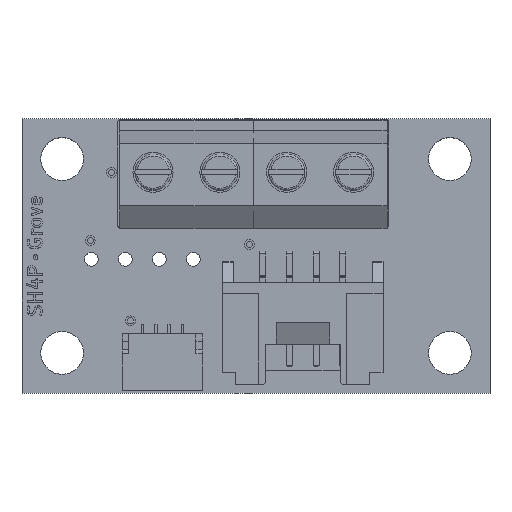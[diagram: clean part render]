
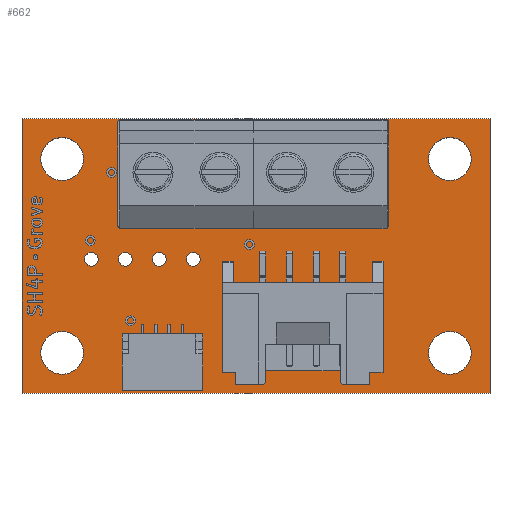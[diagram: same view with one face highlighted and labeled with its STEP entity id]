
A CAD part, top view. The second image highlights one B-rep face of the part: STEP entity #662.
In plain terms, the highlighted planar face has unit normal (0, 0, 1).
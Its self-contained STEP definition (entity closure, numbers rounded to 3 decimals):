
#147 = VERTEX_POINT('',#148);
#148 = CARTESIAN_POINT('',(0.,0.,0.));
#165 = VERTEX_POINT('',#166);
#166 = CARTESIAN_POINT('',(35.,0.,0.));
#172 = EDGE_CURVE('',#147,#165,#173,.T.);
#173 = LINE('',#174,#175);
#174 = CARTESIAN_POINT('',(0.,0.,0.));
#175 = VECTOR('',#176,1.);
#176 = DIRECTION('',(1.,0.,0.));
#187 = VERTEX_POINT('',#188);
#188 = CARTESIAN_POINT('',(0.,-20.5,0.));
#203 = EDGE_CURVE('',#187,#147,#204,.T.);
#204 = LINE('',#205,#206);
#205 = CARTESIAN_POINT('',(0.,-20.5,0.));
#206 = VECTOR('',#207,1.);
#207 = DIRECTION('',(0.,1.,0.));
#227 = VERTEX_POINT('',#228);
#228 = CARTESIAN_POINT('',(35.,-20.5,0.));
#234 = EDGE_CURVE('',#165,#227,#235,.T.);
#235 = LINE('',#236,#237);
#236 = CARTESIAN_POINT('',(35.,0.,0.));
#237 = VECTOR('',#238,1.);
#238 = DIRECTION('',(0.,-1.,0.));
#256 = EDGE_CURVE('',#227,#187,#257,.T.);
#257 = LINE('',#258,#259);
#258 = CARTESIAN_POINT('',(35.,-20.5,0.));
#259 = VECTOR('',#260,1.);
#260 = DIRECTION('',(-1.,0.,0.));
#271 = VERTEX_POINT('',#272);
#272 = CARTESIAN_POINT('',(33.6,-17.5,0.));
#288 = EDGE_CURVE('',#271,#271,#289,.T.);
#289 = CIRCLE('',#290,1.6);
#290 = AXIS2_PLACEMENT_3D('',#291,#292,#293);
#291 = CARTESIAN_POINT('',(32.,-17.5,0.));
#292 = DIRECTION('',(0.,0.,1.));
#293 = DIRECTION('',(1.,0.,-0.));
#304 = VERTEX_POINT('',#305);
#305 = CARTESIAN_POINT('',(4.6,-17.5,0.));
#321 = EDGE_CURVE('',#304,#304,#322,.T.);
#322 = CIRCLE('',#323,1.6);
#323 = AXIS2_PLACEMENT_3D('',#324,#325,#326);
#324 = CARTESIAN_POINT('',(3.,-17.5,0.));
#325 = DIRECTION('',(0.,0.,1.));
#326 = DIRECTION('',(1.,0.,-0.));
#337 = VERTEX_POINT('',#338);
#338 = CARTESIAN_POINT('',(13.32,-10.5,0.));
#354 = EDGE_CURVE('',#337,#337,#355,.T.);
#355 = CIRCLE('',#356,0.51);
#356 = AXIS2_PLACEMENT_3D('',#357,#358,#359);
#357 = CARTESIAN_POINT('',(12.81,-10.5,0.));
#358 = DIRECTION('',(0.,0.,1.));
#359 = DIRECTION('',(1.,0.,-0.));
#370 = VERTEX_POINT('',#371);
#371 = CARTESIAN_POINT('',(10.78,-10.5,0.));
#387 = EDGE_CURVE('',#370,#370,#388,.T.);
#388 = CIRCLE('',#389,0.51);
#389 = AXIS2_PLACEMENT_3D('',#390,#391,#392);
#390 = CARTESIAN_POINT('',(10.27,-10.5,0.));
#391 = DIRECTION('',(0.,0.,1.));
#392 = DIRECTION('',(1.,0.,-0.));
#403 = VERTEX_POINT('',#404);
#404 = CARTESIAN_POINT('',(8.24,-10.5,0.));
#420 = EDGE_CURVE('',#403,#403,#421,.T.);
#421 = CIRCLE('',#422,0.51);
#422 = AXIS2_PLACEMENT_3D('',#423,#424,#425);
#423 = CARTESIAN_POINT('',(7.73,-10.5,0.));
#424 = DIRECTION('',(0.,0.,1.));
#425 = DIRECTION('',(1.,0.,-0.));
#436 = VERTEX_POINT('',#437);
#437 = CARTESIAN_POINT('',(5.7,-10.5,0.));
#453 = EDGE_CURVE('',#436,#436,#454,.T.);
#454 = CIRCLE('',#455,0.51);
#455 = AXIS2_PLACEMENT_3D('',#456,#457,#458);
#456 = CARTESIAN_POINT('',(5.19,-10.5,0.));
#457 = DIRECTION('',(0.,0.,1.));
#458 = DIRECTION('',(1.,0.,-0.));
#469 = VERTEX_POINT('',#470);
#470 = CARTESIAN_POINT('',(33.6,-3.,0.));
#486 = EDGE_CURVE('',#469,#469,#487,.T.);
#487 = CIRCLE('',#488,1.6);
#488 = AXIS2_PLACEMENT_3D('',#489,#490,#491);
#489 = CARTESIAN_POINT('',(32.,-3.,0.));
#490 = DIRECTION('',(0.,0.,1.));
#491 = DIRECTION('',(1.,0.,-0.));
#502 = VERTEX_POINT('',#503);
#503 = CARTESIAN_POINT('',(25.45,-4.,0.));
#519 = EDGE_CURVE('',#502,#502,#520,.T.);
#520 = CIRCLE('',#521,0.65);
#521 = AXIS2_PLACEMENT_3D('',#522,#523,#524);
#522 = CARTESIAN_POINT('',(24.8,-4.,0.));
#523 = DIRECTION('',(0.,0.,1.));
#524 = DIRECTION('',(1.,0.,-0.));
#535 = VERTEX_POINT('',#536);
#536 = CARTESIAN_POINT('',(20.448,-4.,0.));
#552 = EDGE_CURVE('',#535,#535,#553,.T.);
#553 = CIRCLE('',#554,0.65);
#554 = AXIS2_PLACEMENT_3D('',#555,#556,#557);
#555 = CARTESIAN_POINT('',(19.798,-4.,0.));
#556 = DIRECTION('',(0.,0.,1.));
#557 = DIRECTION('',(1.,0.,-0.));
#568 = VERTEX_POINT('',#569);
#569 = CARTESIAN_POINT('',(15.45,-4.,0.));
#585 = EDGE_CURVE('',#568,#568,#586,.T.);
#586 = CIRCLE('',#587,0.65);
#587 = AXIS2_PLACEMENT_3D('',#588,#589,#590);
#588 = CARTESIAN_POINT('',(14.8,-4.,0.));
#589 = DIRECTION('',(0.,0.,1.));
#590 = DIRECTION('',(1.,0.,-0.));
#601 = VERTEX_POINT('',#602);
#602 = CARTESIAN_POINT('',(10.448,-4.,0.));
#618 = EDGE_CURVE('',#601,#601,#619,.T.);
#619 = CIRCLE('',#620,0.65);
#620 = AXIS2_PLACEMENT_3D('',#621,#622,#623);
#621 = CARTESIAN_POINT('',(9.798,-4.,0.));
#622 = DIRECTION('',(0.,0.,1.));
#623 = DIRECTION('',(1.,0.,-0.));
#634 = VERTEX_POINT('',#635);
#635 = CARTESIAN_POINT('',(4.6,-3.,0.));
#651 = EDGE_CURVE('',#634,#634,#652,.T.);
#652 = CIRCLE('',#653,1.6);
#653 = AXIS2_PLACEMENT_3D('',#654,#655,#656);
#654 = CARTESIAN_POINT('',(3.,-3.,0.));
#655 = DIRECTION('',(0.,0.,1.));
#656 = DIRECTION('',(1.,0.,-0.));
#662 = ADVANCED_FACE('',(#663,#669,#672,#675,#678,#681,#684,#687,#690,
    #693,#696,#699,#702),#705,.F.);
#663 = FACE_BOUND('',#664,.F.);
#664 = EDGE_LOOP('',(#665,#666,#667,#668));
#665 = ORIENTED_EDGE('',*,*,#172,.T.);
#666 = ORIENTED_EDGE('',*,*,#234,.T.);
#667 = ORIENTED_EDGE('',*,*,#256,.T.);
#668 = ORIENTED_EDGE('',*,*,#203,.T.);
#669 = FACE_BOUND('',#670,.F.);
#670 = EDGE_LOOP('',(#671));
#671 = ORIENTED_EDGE('',*,*,#288,.T.);
#672 = FACE_BOUND('',#673,.F.);
#673 = EDGE_LOOP('',(#674));
#674 = ORIENTED_EDGE('',*,*,#321,.T.);
#675 = FACE_BOUND('',#676,.F.);
#676 = EDGE_LOOP('',(#677));
#677 = ORIENTED_EDGE('',*,*,#354,.T.);
#678 = FACE_BOUND('',#679,.F.);
#679 = EDGE_LOOP('',(#680));
#680 = ORIENTED_EDGE('',*,*,#387,.T.);
#681 = FACE_BOUND('',#682,.F.);
#682 = EDGE_LOOP('',(#683));
#683 = ORIENTED_EDGE('',*,*,#420,.T.);
#684 = FACE_BOUND('',#685,.F.);
#685 = EDGE_LOOP('',(#686));
#686 = ORIENTED_EDGE('',*,*,#453,.T.);
#687 = FACE_BOUND('',#688,.F.);
#688 = EDGE_LOOP('',(#689));
#689 = ORIENTED_EDGE('',*,*,#486,.T.);
#690 = FACE_BOUND('',#691,.F.);
#691 = EDGE_LOOP('',(#692));
#692 = ORIENTED_EDGE('',*,*,#519,.T.);
#693 = FACE_BOUND('',#694,.F.);
#694 = EDGE_LOOP('',(#695));
#695 = ORIENTED_EDGE('',*,*,#552,.T.);
#696 = FACE_BOUND('',#697,.F.);
#697 = EDGE_LOOP('',(#698));
#698 = ORIENTED_EDGE('',*,*,#585,.T.);
#699 = FACE_BOUND('',#700,.F.);
#700 = EDGE_LOOP('',(#701));
#701 = ORIENTED_EDGE('',*,*,#618,.T.);
#702 = FACE_BOUND('',#703,.F.);
#703 = EDGE_LOOP('',(#704));
#704 = ORIENTED_EDGE('',*,*,#651,.T.);
#705 = PLANE('',#706);
#706 = AXIS2_PLACEMENT_3D('',#707,#708,#709);
#707 = CARTESIAN_POINT('',(17.5,-10.25,0.));
#708 = DIRECTION('',(-0.,-0.,-1.));
#709 = DIRECTION('',(-1.,0.,0.));
